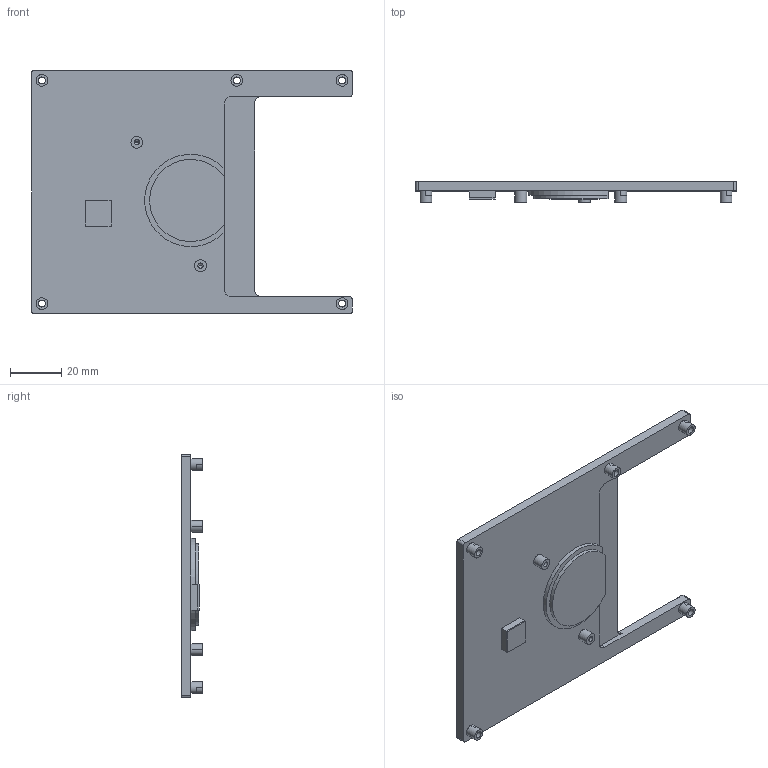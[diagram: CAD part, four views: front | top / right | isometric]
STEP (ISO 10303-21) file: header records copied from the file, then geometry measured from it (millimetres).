
FILE_DESCRIPTION((''),'2;1');
FILE_NAME('ESM-CFH-HEATSPEADER_ASM','2019-10-01T13:39:43',('kobe_chang'),(''),'CREO PARAMETRIC BY PTC INC, 2017110','CREO PARAMETRIC BY PTC INC, 2017110','');
FILE_SCHEMA(('CONFIG_CONTROL_DESIGN','GEOMETRIC_VALIDATION_PROPERTIES_MIM'));
Length unit declared in the file: millimetre
Products named in the file (3): ESM-CFH-HEATSPEADER; LIPOLY-PK404-10-10-0_5T; ESM-CFH-HEATSPEADER_ASM
Assembly tree (2 placements, depth 2):
  ESM-CFH-HEATSPEADER_ASM
    ESM-CFH-HEATSPEADER
    LIPOLY-PK404-10-10-0_5T
Bounding box: 125 x 8 x 95 mm (x, y, z)
Volume: 33345.7 mm3; surface area: 21154.1 mm2
Topology: 2 solids, 2 shells, 86 faces, 232 edges, 155 vertices
Faces by surface type: cylinder 40, plane 32, cone 14
Entity records: 3648 total; most frequent: DIRECTION 509, CARTESIAN_POINT 489, ORIENTED_EDGE 456, PRESENTATION_STYLE_ASSIGNMENT 230, STYLED_ITEM 230, CURVE_STYLE 228, EDGE_CURVE 228, AXIS2_PLACEMENT_3D 192
